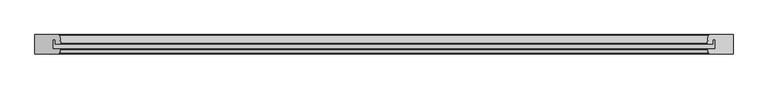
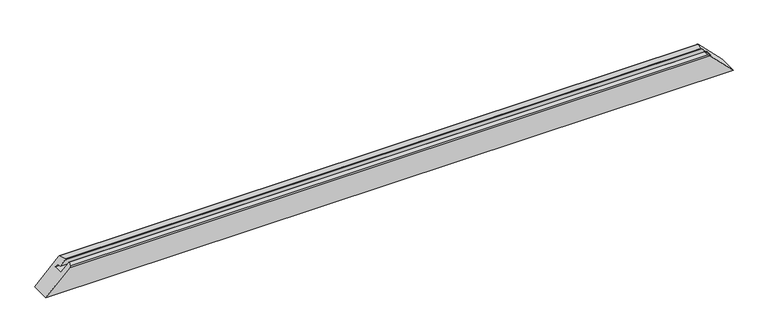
"""IFC4 building model written with IfcOpenShell, lengths in millimetres: proxy geometry, Weiku - Montante - Caixilho fixo 02.2.01.005 : Weiku - Montante - Caixilho fixo 02.2.01.005."""

from ifc_helpers import new_model, si_unit, frame, origin, place, context, project, spatial, ellipse_curve, source, transform, mapped, element, save
from ifc_brep_helpers import plane_surface, cylinder_surface, advanced_brep


def generic_models_cece214c(model_context):
    return source(origin(), model_context, "Body", "AdvancedBrep", [
        advanced_brep(
        [(-830.618227, -38.5070552, 66.881773), (-831.3909676, -37.5, 66.1090324), (-851.5, -37.5, 46.0), (-851.5, -12.5, 46.0), (-845.5009154, -12.5, 51.9990846), (-845.5009154, -23.5, 51.9990846), (-831.4865015, -23.5, 66.0134985), (-830.4998537, -22.3371317, 67.0001463), (-834.0489094, -0.8371317, 63.4510906), (-835.0355572, 0.0, 62.4644428), (-897.5, 0.0, 0.0), (-897.5, -50.0, 0.0), (-835.9997332, -50.0, 61.5002668), (-833.1019557, -47.7764571, 64.3980443), (833.1019557, -47.7764571, 64.3980443), (835.9997332, -50.0, 61.5002668), (897.5, -50.0, 0.0), (897.5, 0.0, 0.0), (835.0355572, 0.0, 62.4644428), (834.0489094, -0.8371317, 63.4510906), (830.4998537, -22.3371317, 67.0001463), (831.4865015, -23.5, 66.0134985), (845.5009154, -23.5, 51.9990846), (845.5009154, -12.5, 51.9990846), (851.5, -12.5, 46.0), (851.5, -37.5, 46.0), (831.3909676, -37.5, 66.1090324), (830.618227, -38.5070552, 66.881773)],
        [
            (0, 1, ellipse_curve(frame((-831.3909676, -38.3, 66.1090324), z_axis=(-0.7071067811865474, 0.0, 0.7071067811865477), x_axis=(-0.7071067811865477, 0.0, -0.7071067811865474)), 1.1313708, 0.8)),
            (1, 2),
            (2, 3),
            (3, 4),
            (4, 5),
            (5, 6),
            (6, 7, ellipse_curve(frame((-831.4865015, -22.5, 66.0134985), z_axis=(-0.7071067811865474, 0.0, 0.7071067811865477), x_axis=(-0.7071067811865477, 0.0, -0.7071067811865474)), 1.4142136, 1.0)),
            (7, 8),
            (8, 9, ellipse_curve(frame((-835.0355572, -1.0, 62.4644428), z_axis=(-0.7071067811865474, 0.0, 0.7071067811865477), x_axis=(-0.7071067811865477, 0.0, -0.7071067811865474)), 1.4142136, 1.0)),
            (9, 10),
            (10, 11),
            (11, 12),
            (12, 13, ellipse_curve(frame((-835.9997332, -47.0, 61.5002668), z_axis=(-0.7071067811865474, 0.0, 0.7071067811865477), x_axis=(-0.7071067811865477, 0.0, -0.7071067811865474)), 4.2426407, 3.0)),
            (13, 0),
            (14, 15, ellipse_curve(frame((835.9997332, -47.0, 61.5002668), z_axis=(0.7071067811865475, 0.0, 0.7071067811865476), x_axis=(-0.7071067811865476, 0.0, 0.7071067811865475)), 4.2426407, 3.0)),
            (15, 16),
            (16, 17),
            (17, 18),
            (18, 19, ellipse_curve(frame((835.0355572, -1.0, 62.4644428), z_axis=(0.7071067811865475, 0.0, 0.7071067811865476), x_axis=(-0.7071067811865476, 0.0, 0.7071067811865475)), 1.4142136, 1.0)),
            (19, 20),
            (20, 21, ellipse_curve(frame((831.4865015, -22.5, 66.0134985), z_axis=(0.7071067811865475, 0.0, 0.7071067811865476), x_axis=(-0.7071067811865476, 0.0, 0.7071067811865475)), 1.4142136, 1.0)),
            (21, 22),
            (22, 23),
            (23, 24),
            (24, 25),
            (25, 26),
            (26, 27, ellipse_curve(frame((831.3909676, -38.3, 66.1090324), z_axis=(0.7071067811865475, 0.0, 0.7071067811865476), x_axis=(-0.7071067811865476, 0.0, 0.7071067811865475)), 1.1313708, 0.8)),
            (27, 14),
            (13, 14),
            (27, 0),
            (12, 15),
            (11, 16),
            (10, 17),
            (9, 18),
            (8, 19),
            (7, 20),
            (6, 21),
            (5, 22),
            (4, 23),
            (3, 24),
            (2, 25),
            (1, 26),
        ],
        [
            plane_surface(frame((-967.5, 15.0, -70.0), z_axis=(-0.7071067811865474, 0.0, 0.7071067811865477), x_axis=(0.0, -1.0, 0.0))),
            plane_surface(frame((827.5, 15.0, 70.0), z_axis=(0.7071067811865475, 0.0, 0.7071067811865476), x_axis=(0.0, -1.0, 0.0))),
            plane_surface(frame((-897.5, -38.5070552, 66.881773), z_axis=(0.0, -0.2588190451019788, 0.9659258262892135), x_axis=(1.0, 0.0, 0.0))),
            cylinder_surface(frame((-897.5, -47.0, 61.5002668), z_axis=(-1.0, 0.0, 0.0), x_axis=(0.0, 1.0, 0.0)), 3.0),
            plane_surface(frame((-897.5, -50.0, 61.5002668), z_axis=(0.0, -1.0, 0.0), x_axis=(1.0, 0.0, 0.0))),
            plane_surface(frame((-897.5, -50.0, 0.0), z_axis=(0.0, 0.0, -1.0), x_axis=(1.0, 0.0, 0.0))),
            plane_surface(frame((-897.5, 0.0, 0.0), z_axis=(0.0, 1.0, 0.0), x_axis=(1.0, 0.0, 0.0))),
            cylinder_surface(frame((-897.5, -1.0, 62.4644428), z_axis=(-1.0, 0.0, 0.0), x_axis=(0.0, -1.0, 0.0)), 1.0),
            plane_surface(frame((-897.5, -0.8371317, 63.4510906), z_axis=(0.0, 0.16286828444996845, 0.9866478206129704), x_axis=(1.0, 0.0, 0.0))),
            cylinder_surface(frame((-897.5, -22.5, 66.0134985), z_axis=(-1.0, 0.0, 0.0), x_axis=(0.0, -1.0, 0.0)), 1.0),
            plane_surface(frame((-897.5, -23.5, 66.0134985), z_axis=(0.0, -1.0, 0.0), x_axis=(1.0, 0.0, 0.0))),
            plane_surface(frame((-897.5, -23.5, 51.9990846), z_axis=(0.0, 0.0, -1.0), x_axis=(1.0, 0.0, 0.0))),
            plane_surface(frame((-897.5, -12.5, 51.9990846), z_axis=(0.0, -1.0, 0.0), x_axis=(1.0, 0.0, 0.0))),
            plane_surface(frame((-897.5, -12.5, 46.0), z_axis=(0.0, 0.0, 1.0), x_axis=(1.0, 0.0, 0.0))),
            plane_surface(frame((-897.5, -37.5, 46.0), z_axis=(0.0, 1.0, 0.0), x_axis=(1.0, 0.0, 0.0))),
            cylinder_surface(frame((-897.5, -38.3, 66.1090324), z_axis=(-1.0, 0.0, 0.0), x_axis=(0.0, 1.0, 0.0)), 0.8),
        ],
        [
            (0, [[1, 2, 3, 4, 5, 6, 7, 8, 9, 10, 11, 12, 13, 14]]),
            (1, [[15, 16, 17, 18, 19, 20, 21, 22, 23, 24, 25, 26, 27, 28]]),
            (2, [[29, -28, 30, -14]]),
            (3, [[31, -15, -29, -13]]),
            (4, [[-16, -31, -12, 32]]),
            (5, [[-11, 33, -17, -32]]),
            (6, [[-10, 34, -18, -33]]),
            (7, [[35, -19, -34, -9]]),
            (8, [[36, -20, -35, -8]]),
            (9, [[37, -21, -36, -7]]),
            (10, [[38, -22, -37, -6]]),
            (11, [[39, -23, -38, -5]]),
            (12, [[40, -24, -39, -4]]),
            (13, [[41, -25, -40, -3]]),
            (14, [[42, -26, -41, -2]]),
            (15, [[-30, -27, -42, -1]]),
        ],
    ),
    ])


if __name__ == "__main__":
    model = new_model("IFC4")
    model_context = context("Model", 3, world=origin())
    ifc_project = project(units=[si_unit("LENGTHUNIT", "METRE", prefix="MILLI")], contexts=[model_context])
    site = spatial("IfcSite", under=ifc_project)
    building = spatial("IfcBuilding", under=site)
    placement = place(None, origin())
    generic_models_shape = generic_models_cece214c(model_context)
    element("IfcBuildingElementProxy", 1, Name="Weiku - Montante - Caixilho fixo 02.2.01.005 : Weiku - Montante - Caixilho fixo 02.2.01.005", ObjectType="Weiku - Montante - Caixilho fixo 02.2.01.005 : Weiku - Montante - Caixilho fixo 02.2.01.005", at=placement, inside=building, context=model_context, shape_type="MappedRepresentation", body=[
        mapped(generic_models_shape, transform((0.0, 0.0, 0.0), x_axis=(1.0, 0.0, 0.0), y_axis=(0.0, 1.0, 0.0), z_axis=(0.0, 0.0, 1.0))),
    ])
    save(model, "model.ifc")
